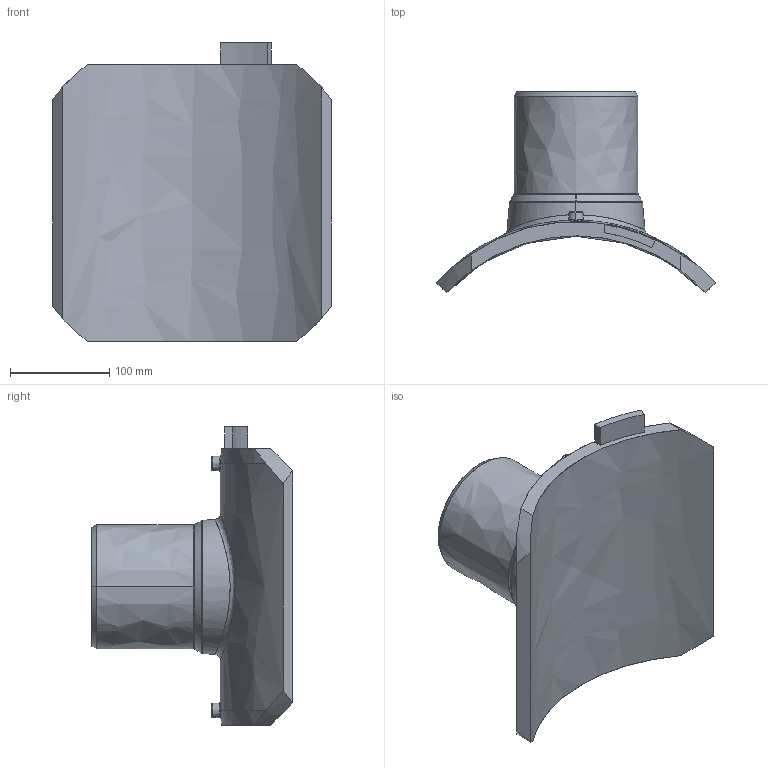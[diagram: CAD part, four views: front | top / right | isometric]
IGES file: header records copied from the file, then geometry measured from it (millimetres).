
Start section:  PTC IGES file: sa-uni_d355_125_01.igs
Global section: file name: sa-uni_d355_125_01.igs; native system: Pro/ENGINEER by Parametric Technology Corporation; preprocessor: 2011490; author: MikulicP; organization: Unknown; date: 20170203.113940; units: millimetre
Bounding box: 281.01 x 202.88 x 301 mm (x, y, z)
Surface area: 287743.6 mm2 (no closed solid volume)
Topology: 0 solids, 0 shells, 202 faces, 1000 edges, 1000 vertices
Faces by surface type: bspline 202
